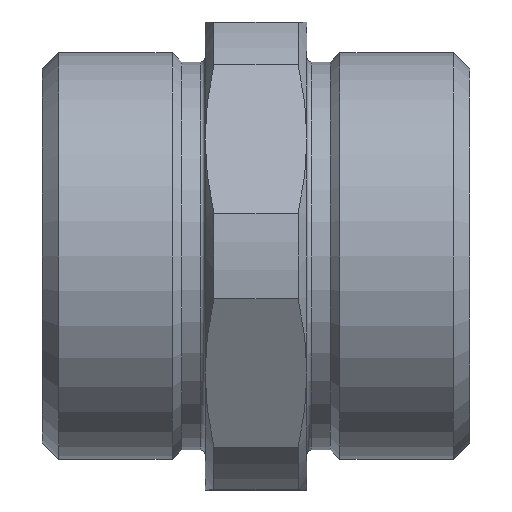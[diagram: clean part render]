
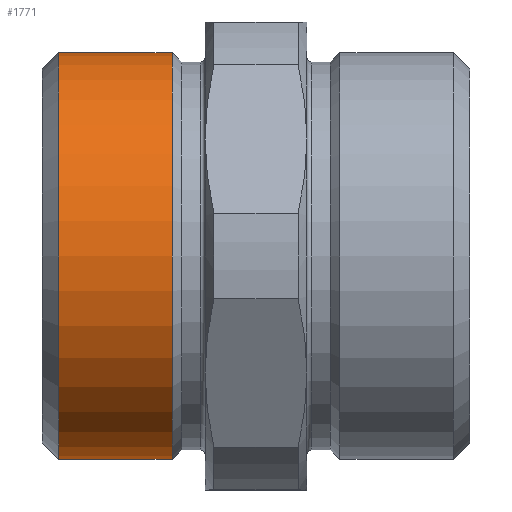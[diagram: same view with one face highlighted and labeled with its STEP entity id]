
A CAD part, front view. The second image highlights one B-rep face of the part: STEP entity #1771.
In plain terms, the highlighted cylindrical face has radius 20 mm (diameter 40 mm), a partial arc.
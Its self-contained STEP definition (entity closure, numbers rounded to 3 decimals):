
#92 = VERTEX_POINT ( 'NONE', #1340 ) ;
#93 = VERTEX_POINT ( 'NONE', #1339 ) ;
#94 = VERTEX_POINT ( 'NONE', #1310 ) ;
#95 = VERTEX_POINT ( 'NONE', #1309 ) ;
#113 = EDGE_LOOP ( 'NONE', ( #1409, #1408, #1407, #1406 ) ) ;
#374 = AXIS2_PLACEMENT_3D ( 'NONE', #1036, #1035, #1033 ) ;
#375 = AXIS2_PLACEMENT_3D ( 'NONE', #1039, #1038, #1037 ) ;
#479 = EDGE_CURVE ( 'NONE', #93, #95, #1531, .T. ) ;
#481 = EDGE_CURVE ( 'NONE', #92, #94, #1535, .T. ) ;
#534 = AXIS2_PLACEMENT_3D ( 'NONE', #757, #758, #763 ) ;
#545 = EDGE_CURVE ( 'NONE', #95, #94, #1575, .T. ) ;
#547 = EDGE_CURVE ( 'NONE', #93, #92, #1576, .T. ) ;
#757 = CARTESIAN_POINT ( 'NONE',  ( 21.738, 0., 0. ) ) ;
#758 = DIRECTION ( 'NONE',  ( 1., 0., 0. ) ) ;
#763 = DIRECTION ( 'NONE',  ( 0., 0., -1. ) ) ;
#1033 = DIRECTION ( 'NONE',  ( 0., 0., -1. ) ) ;
#1035 = DIRECTION ( 'NONE',  ( 1., 0., 0. ) ) ;
#1036 = CARTESIAN_POINT ( 'NONE',  ( -40.4, 0., 0. ) ) ;
#1037 = DIRECTION ( 'NONE',  ( 0., 0., -1. ) ) ;
#1038 = DIRECTION ( 'NONE',  ( 1., 0., 0. ) ) ;
#1039 = CARTESIAN_POINT ( 'NONE',  ( -29.25, 0., 0. ) ) ;
#1155 = CARTESIAN_POINT ( 'NONE',  ( 21.738, 0., 20. ) ) ;
#1156 = DIRECTION ( 'NONE',  ( 1., 0., 0. ) ) ;
#1160 = DIRECTION ( 'NONE',  ( 1., 0., 0. ) ) ;
#1173 = CARTESIAN_POINT ( 'NONE',  ( 21.738, 0., -20. ) ) ;
#1309 = CARTESIAN_POINT ( 'NONE',  ( -29.25, 0., 20. ) ) ;
#1310 = CARTESIAN_POINT ( 'NONE',  ( -29.25, 0., -20. ) ) ;
#1339 = CARTESIAN_POINT ( 'NONE',  ( -40.4, 0., 20. ) ) ;
#1340 = CARTESIAN_POINT ( 'NONE',  ( -40.4, 0., -20. ) ) ;
#1406 = ORIENTED_EDGE ( 'NONE', *, *, #545, .F. ) ;
#1407 = ORIENTED_EDGE ( 'NONE', *, *, #481, .T. ) ;
#1408 = ORIENTED_EDGE ( 'NONE', *, *, #547, .T. ) ;
#1409 = ORIENTED_EDGE ( 'NONE', *, *, #479, .F. ) ;
#1531 = LINE ( 'NONE', #1155, #1534 ) ;
#1534 = VECTOR ( 'NONE', #1160, 1000. ) ;
#1535 = LINE ( 'NONE', #1173, #1537 ) ;
#1537 = VECTOR ( 'NONE', #1156, 1000. ) ;
#1575 = CIRCLE ( 'NONE', #375, 20. ) ;
#1576 = CIRCLE ( 'NONE', #374, 20. ) ;
#1660 = FACE_OUTER_BOUND ( 'NONE', #113, .T. ) ;
#1666 = CYLINDRICAL_SURFACE ( 'NONE', #534, 20. ) ;
#1771 = ADVANCED_FACE ( 'NONE', ( #1660 ), #1666, .T. ) ;
